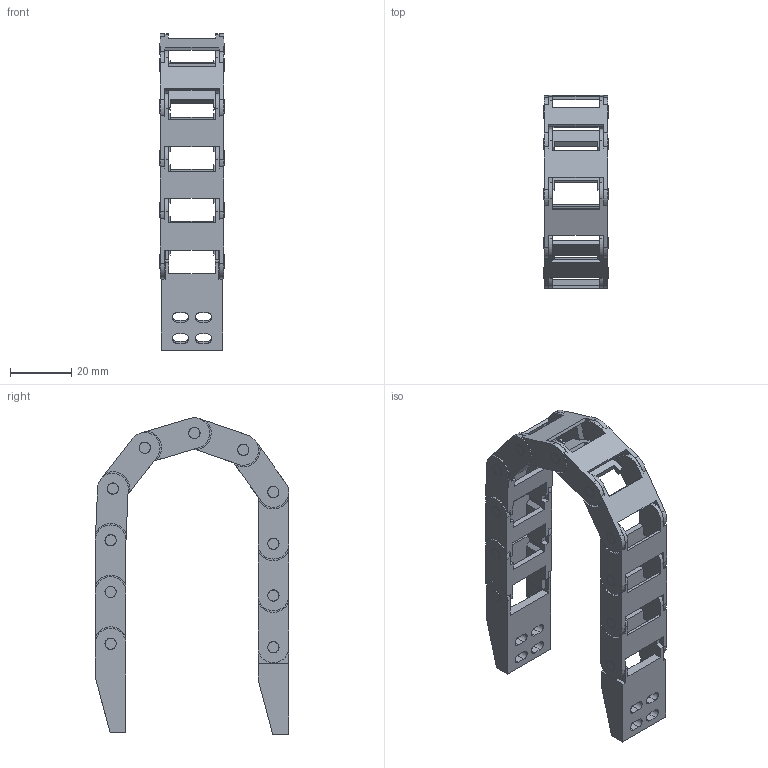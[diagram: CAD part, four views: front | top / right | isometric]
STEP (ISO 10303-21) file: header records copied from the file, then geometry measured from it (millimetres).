
FILE_DESCRIPTION((''),'2;1');
FILE_NAME('70001_ASM_48_ASM','2024-07-16T20:52:47',('admin'),(''),'CREO PARAMETRIC BY PTC INC, 2021164','CREO PARAMETRIC BY PTC INC, 2021164','');
FILE_SCHEMA(('CONFIG_CONTROL_DESIGN','GEOMETRIC_VALIDATION_PROPERTIES_MIM'));
Length unit declared in the file: millimetre
Products named in the file (4): 7X7-R28-00_7; 7X15-LLT-156; 7X15-LLT-157; 70001_ASM_48_ASM
Assembly tree (12 placements, depth 2):
  70001_ASM_48_ASM
    7X7-R28-00_7  x10
    7X15-LLT-156
    7X15-LLT-157
Bounding box: 21.36 x 63.14 x 103.36 mm (x, y, z)
Volume: 15051 mm3; surface area: 22622.5 mm2
Topology: 12 solids, 12 shells, 532 faces, 1520 edges, 1014 vertices
Faces by surface type: plane 362, cylinder 166, bspline 4
Entity records: 6456 total; most frequent: CARTESIAN_POINT 999, ORIENTED_EDGE 772, DIRECTION 748, PRESENTATION_STYLE_ASSIGNMENT 389, STYLED_ITEM 389, CURVE_STYLE 386, EDGE_CURVE 386, COLOUR_RGB 313
